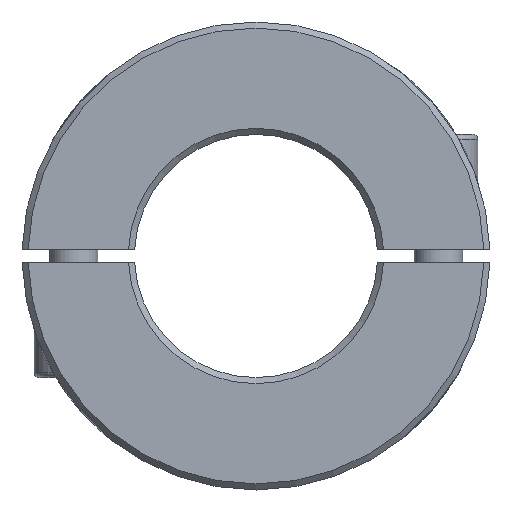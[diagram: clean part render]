
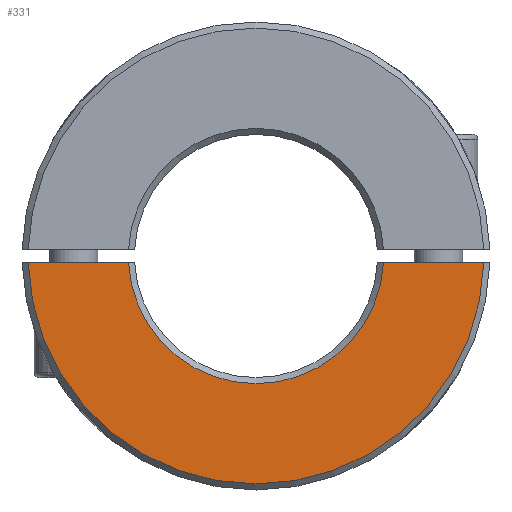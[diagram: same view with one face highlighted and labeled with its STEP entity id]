
A CAD part, front view. The second image highlights one B-rep face of the part: STEP entity #331.
In plain terms, the highlighted planar face has unit normal (0, -1, 0).
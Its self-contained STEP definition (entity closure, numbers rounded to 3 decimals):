
#331 = ADVANCED_FACE( '', ( #641 ), #642, .F. );
#641 = FACE_OUTER_BOUND( '', #977, .T. );
#642 = PLANE( '', #978 );
#977 = EDGE_LOOP( '', ( #1488, #1489, #1490, #1491 ) );
#978 = AXIS2_PLACEMENT_3D( '', #1492, #1493, #1494 );
#1488 = ORIENTED_EDGE( '', *, *, #1819, .F. );
#1489 = ORIENTED_EDGE( '', *, *, #1919, .T. );
#1490 = ORIENTED_EDGE( '', *, *, #1929, .F. );
#1491 = ORIENTED_EDGE( '', *, *, #1835, .T. );
#1492 = CARTESIAN_POINT( '', ( 0., -108., 0. ) );
#1493 = DIRECTION( '', ( 0., 1., 0. ) );
#1494 = DIRECTION( '', ( 0., 0., 1. ) );
#1819 = EDGE_CURVE( '', #2086, #2088, #2089, .T. );
#1835 = EDGE_CURVE( '', #2115, #2088, #2116, .F. );
#1919 = EDGE_CURVE( '', #2086, #2243, #2245, .T. );
#1929 = EDGE_CURVE( '', #2115, #2243, #2259, .T. );
#2086 = VERTEX_POINT( '', #2465 );
#2088 = VERTEX_POINT( '', #2470 );
#2089 = LINE( '', #2471, #2472 );
#2115 = VERTEX_POINT( '', #2519 );
#2116 = CIRCLE( '', #2520, 37.5 );
#2243 = VERTEX_POINT( '', #2985 );
#2245 = CIRCLE( '', #2990, 21. );
#2259 = LINE( '', #3007, #3008 );
#2465 = CARTESIAN_POINT( '', ( 20.976, -108., -1. ) );
#2470 = CARTESIAN_POINT( '', ( 37.487, -108., -1. ) );
#2471 = CARTESIAN_POINT( '', ( 0., -108., -1. ) );
#2472 = VECTOR( '', #4129, 1000. );
#2519 = CARTESIAN_POINT( '', ( -37.487, -108., -1. ) );
#2520 = AXIS2_PLACEMENT_3D( '', #4150, #4151, #4152 );
#2985 = CARTESIAN_POINT( '', ( -20.976, -108., -1. ) );
#2990 = AXIS2_PLACEMENT_3D( '', #4261, #4262, #4263 );
#3007 = CARTESIAN_POINT( '', ( 0., -108., -1. ) );
#3008 = VECTOR( '', #4276, 1000. );
#4129 = DIRECTION( '', ( 1., 0., 0. ) );
#4150 = CARTESIAN_POINT( '', ( 0., -108., 0. ) );
#4151 = DIRECTION( '', ( 0., 1., 0. ) );
#4152 = DIRECTION( '', ( 0., 0., 1. ) );
#4261 = CARTESIAN_POINT( '', ( 0., -108., 0. ) );
#4262 = DIRECTION( '', ( 0., 1., 0. ) );
#4263 = DIRECTION( '', ( 0., 0., 1. ) );
#4276 = DIRECTION( '', ( 1., 0., 0. ) );
